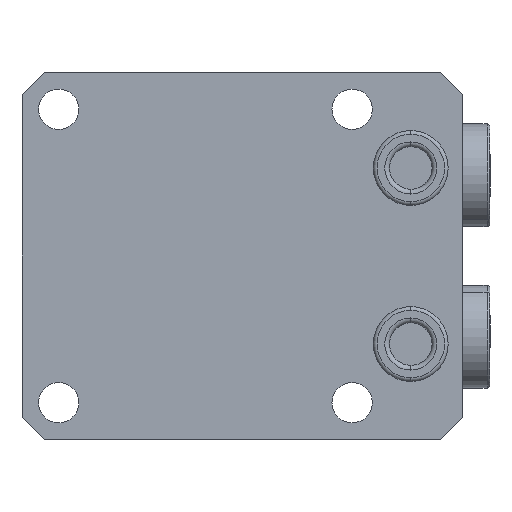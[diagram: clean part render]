
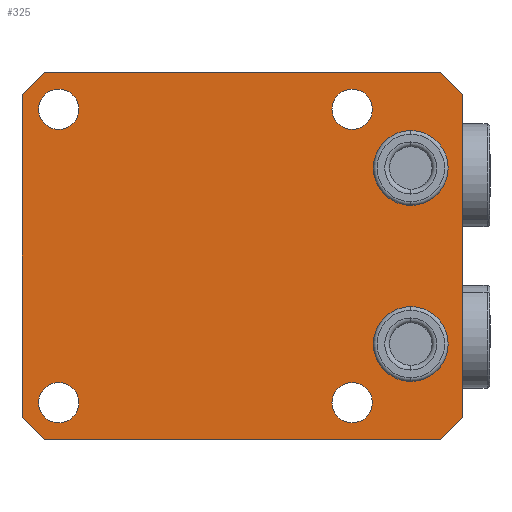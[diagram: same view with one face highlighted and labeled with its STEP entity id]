
A CAD part, front view. The second image highlights one B-rep face of the part: STEP entity #325.
In plain terms, the highlighted planar face has unit normal (0, -1, 0).
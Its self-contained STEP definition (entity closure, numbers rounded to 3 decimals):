
#325=ADVANCED_FACE('',(#770,#771,#772,#773,#774,#775,#776),#434,.F.);
#434=PLANE('',#2228);
#481=LINE('',#3083,#606);
#505=LINE('',#3280,#630);
#506=LINE('',#3283,#631);
#507=LINE('',#3285,#632);
#508=LINE('',#3287,#633);
#509=LINE('',#3288,#634);
#510=LINE('',#3290,#635);
#511=LINE('',#3292,#636);
#606=VECTOR('',#2427,1.);
#630=VECTOR('',#2573,1.);
#631=VECTOR('',#2574,1.);
#632=VECTOR('',#2575,1.);
#633=VECTOR('',#2576,1.);
#634=VECTOR('',#2577,1.);
#635=VECTOR('',#2578,1.);
#636=VECTOR('',#2579,1.);
#770=FACE_BOUND('',#831,.T.);
#771=FACE_BOUND('',#832,.T.);
#772=FACE_BOUND('',#833,.T.);
#773=FACE_BOUND('',#834,.T.);
#774=FACE_BOUND('',#835,.T.);
#775=FACE_BOUND('',#836,.T.);
#776=FACE_BOUND('',#837,.T.);
#831=EDGE_LOOP('',(#1044,#1045,#1046,#1047,#1048,#1049,#1050,#1051));
#832=EDGE_LOOP('',(#1052,#1053));
#833=EDGE_LOOP('',(#1054,#1055));
#834=EDGE_LOOP('',(#1056,#1057));
#835=EDGE_LOOP('',(#1058,#1059));
#836=EDGE_LOOP('',(#1060,#1061));
#837=EDGE_LOOP('',(#1062,#1063));
#1044=ORIENTED_EDGE('',*,*,#1815,.F.);
#1045=ORIENTED_EDGE('',*,*,#1816,.T.);
#1046=ORIENTED_EDGE('',*,*,#1817,.F.);
#1047=ORIENTED_EDGE('',*,*,#1818,.T.);
#1048=ORIENTED_EDGE('',*,*,#1738,.F.);
#1049=ORIENTED_EDGE('',*,*,#1819,.T.);
#1050=ORIENTED_EDGE('',*,*,#1820,.F.);
#1051=ORIENTED_EDGE('',*,*,#1821,.T.);
#1052=ORIENTED_EDGE('',*,*,#1787,.F.);
#1053=ORIENTED_EDGE('',*,*,#1822,.F.);
#1054=ORIENTED_EDGE('',*,*,#1783,.F.);
#1055=ORIENTED_EDGE('',*,*,#1823,.F.);
#1056=ORIENTED_EDGE('',*,*,#1795,.F.);
#1057=ORIENTED_EDGE('',*,*,#1824,.F.);
#1058=ORIENTED_EDGE('',*,*,#1799,.F.);
#1059=ORIENTED_EDGE('',*,*,#1825,.F.);
#1060=ORIENTED_EDGE('',*,*,#1826,.F.);
#1061=ORIENTED_EDGE('',*,*,#1781,.F.);
#1062=ORIENTED_EDGE('',*,*,#1761,.T.);
#1063=ORIENTED_EDGE('',*,*,#1827,.T.);
#1552=VERTEX_POINT('',#3082);
#1553=VERTEX_POINT('',#3084);
#1570=VERTEX_POINT('',#3129);
#1571=VERTEX_POINT('',#3131);
#1584=VERTEX_POINT('',#3168);
#1585=VERTEX_POINT('',#3170);
#1586=VERTEX_POINT('',#3174);
#1587=VERTEX_POINT('',#3175);
#1590=VERTEX_POINT('',#3183);
#1591=VERTEX_POINT('',#3184);
#1598=VERTEX_POINT('',#3206);
#1599=VERTEX_POINT('',#3207);
#1602=VERTEX_POINT('',#3215);
#1603=VERTEX_POINT('',#3216);
#1618=VERTEX_POINT('',#3281);
#1619=VERTEX_POINT('',#3282);
#1620=VERTEX_POINT('',#3284);
#1621=VERTEX_POINT('',#3286);
#1622=VERTEX_POINT('',#3289);
#1623=VERTEX_POINT('',#3291);
#1738=EDGE_CURVE('',#1552,#1553,#481,.T.);
#1761=EDGE_CURVE('',#1571,#1570,#2045,.T.);
#1781=EDGE_CURVE('',#1584,#1585,#2061,.T.);
#1783=EDGE_CURVE('',#1586,#1587,#2062,.T.);
#1787=EDGE_CURVE('',#1590,#1591,#2064,.T.);
#1795=EDGE_CURVE('',#1598,#1599,#2067,.T.);
#1799=EDGE_CURVE('',#1602,#1603,#2069,.T.);
#1815=EDGE_CURVE('',#1618,#1619,#505,.T.);
#1816=EDGE_CURVE('',#1618,#1620,#506,.T.);
#1817=EDGE_CURVE('',#1621,#1620,#507,.T.);
#1818=EDGE_CURVE('',#1621,#1553,#508,.T.);
#1819=EDGE_CURVE('',#1552,#1622,#509,.T.);
#1820=EDGE_CURVE('',#1623,#1622,#510,.T.);
#1821=EDGE_CURVE('',#1623,#1619,#511,.T.);
#1822=EDGE_CURVE('',#1591,#1590,#2072,.T.);
#1823=EDGE_CURVE('',#1587,#1586,#2073,.T.);
#1824=EDGE_CURVE('',#1599,#1598,#2074,.T.);
#1825=EDGE_CURVE('',#1603,#1602,#2075,.T.);
#1826=EDGE_CURVE('',#1585,#1584,#2076,.T.);
#1827=EDGE_CURVE('',#1570,#1571,#2077,.T.);
#2045=CIRCLE('',#2183,5.1);
#2061=CIRCLE('',#2204,5.1);
#2062=CIRCLE('',#2206,2.75);
#2064=CIRCLE('',#2209,2.75);
#2067=CIRCLE('',#2214,2.75);
#2069=CIRCLE('',#2217,2.75);
#2072=CIRCLE('',#2222,2.75);
#2073=CIRCLE('',#2223,2.75);
#2074=CIRCLE('',#2224,2.75);
#2075=CIRCLE('',#2225,2.75);
#2076=CIRCLE('',#2226,5.1);
#2077=CIRCLE('',#2227,5.1);
#2183=AXIS2_PLACEMENT_3D('',#3130,#2478,#2479);
#2204=AXIS2_PLACEMENT_3D('',#3169,#2524,#2525);
#2206=AXIS2_PLACEMENT_3D('',#3173,#2529,#2530);
#2209=AXIS2_PLACEMENT_3D('',#3182,#2537,#2538);
#2214=AXIS2_PLACEMENT_3D('',#3205,#2551,#2552);
#2217=AXIS2_PLACEMENT_3D('',#3214,#2559,#2560);
#2222=AXIS2_PLACEMENT_3D('',#3293,#2580,#2581);
#2223=AXIS2_PLACEMENT_3D('',#3294,#2582,#2583);
#2224=AXIS2_PLACEMENT_3D('',#3295,#2584,#2585);
#2225=AXIS2_PLACEMENT_3D('',#3296,#2586,#2587);
#2226=AXIS2_PLACEMENT_3D('',#3297,#2588,#2589);
#2227=AXIS2_PLACEMENT_3D('',#3298,#2590,#2591);
#2228=AXIS2_PLACEMENT_3D('',#3299,#2592,#2593);
#2427=DIRECTION('',(0.,0.,-1.));
#2478=DIRECTION('',(0.,1.,0.));
#2479=DIRECTION('',(0.,0.,1.));
#2524=DIRECTION('',(0.,-1.,0.));
#2525=DIRECTION('',(0.,0.,-1.));
#2529=DIRECTION('',(0.,-1.,0.));
#2530=DIRECTION('',(0.,0.,1.));
#2537=DIRECTION('',(0.,-1.,0.));
#2538=DIRECTION('',(0.,0.,1.));
#2551=DIRECTION('',(0.,-1.,0.));
#2552=DIRECTION('',(0.,0.,1.));
#2559=DIRECTION('',(0.,-1.,0.));
#2560=DIRECTION('',(0.,0.,1.));
#2573=DIRECTION('',(0.,0.,1.));
#2574=DIRECTION('',(0.707,0.,-0.707));
#2575=DIRECTION('',(-1.,0.,0.));
#2576=DIRECTION('',(0.707,0.,0.707));
#2577=DIRECTION('',(-0.707,0.,0.707));
#2578=DIRECTION('',(1.,0.,0.));
#2579=DIRECTION('',(-0.707,0.,-0.707));
#2580=DIRECTION('',(0.,-1.,0.));
#2581=DIRECTION('',(0.,0.,1.));
#2582=DIRECTION('',(0.,-1.,0.));
#2583=DIRECTION('',(0.,0.,1.));
#2584=DIRECTION('',(0.,-1.,0.));
#2585=DIRECTION('',(0.,0.,1.));
#2586=DIRECTION('',(0.,-1.,0.));
#2587=DIRECTION('',(0.,0.,1.));
#2588=DIRECTION('',(0.,-1.,0.));
#2589=DIRECTION('',(0.,0.,-1.));
#2590=DIRECTION('',(0.,1.,0.));
#2591=DIRECTION('',(0.,0.,1.));
#2592=DIRECTION('',(0.,1.,0.));
#2593=DIRECTION('',(0.,0.,-1.));
#3082=CARTESIAN_POINT('',(35.,0.,22.));
#3083=CARTESIAN_POINT('',(35.,0.,-25.));
#3084=CARTESIAN_POINT('',(35.,0.,-22.));
#3129=CARTESIAN_POINT('',(28.,0.,17.1));
#3130=CARTESIAN_POINT('',(28.,0.,12.));
#3131=CARTESIAN_POINT('',(28.,0.,6.9));
#3168=CARTESIAN_POINT('',(28.,0.,-6.9));
#3169=CARTESIAN_POINT('',(28.,0.,-12.));
#3170=CARTESIAN_POINT('',(28.,0.,-17.1));
#3173=CARTESIAN_POINT('',(-20.,0.,-20.));
#3174=CARTESIAN_POINT('',(-20.,0.,-17.25));
#3175=CARTESIAN_POINT('',(-20.,0.,-22.75));
#3182=CARTESIAN_POINT('',(20.,0.,-20.));
#3183=CARTESIAN_POINT('',(20.,0.,-17.25));
#3184=CARTESIAN_POINT('',(20.,0.,-22.75));
#3205=CARTESIAN_POINT('',(20.,0.,20.));
#3206=CARTESIAN_POINT('',(20.,0.,22.75));
#3207=CARTESIAN_POINT('',(20.,0.,17.25));
#3214=CARTESIAN_POINT('',(-20.,0.,20.));
#3215=CARTESIAN_POINT('',(-20.,0.,22.75));
#3216=CARTESIAN_POINT('',(-20.,0.,17.25));
#3280=CARTESIAN_POINT('',(-25.,0.,-25.));
#3281=CARTESIAN_POINT('',(-25.,0.,-22.));
#3282=CARTESIAN_POINT('',(-25.,0.,22.));
#3283=CARTESIAN_POINT('',(-25.,0.,-22.));
#3284=CARTESIAN_POINT('',(-22.,0.,-25.));
#3285=CARTESIAN_POINT('',(-25.,0.,-25.));
#3286=CARTESIAN_POINT('',(32.,0.,-25.));
#3287=CARTESIAN_POINT('',(32.,0.,-25.));
#3288=CARTESIAN_POINT('',(35.,0.,22.));
#3289=CARTESIAN_POINT('',(32.,0.,25.));
#3290=CARTESIAN_POINT('',(-25.,0.,25.));
#3291=CARTESIAN_POINT('',(-22.,0.,25.));
#3292=CARTESIAN_POINT('',(-22.,0.,25.));
#3293=CARTESIAN_POINT('',(20.,0.,-20.));
#3294=CARTESIAN_POINT('',(-20.,0.,-20.));
#3295=CARTESIAN_POINT('',(20.,0.,20.));
#3296=CARTESIAN_POINT('',(-20.,0.,20.));
#3297=CARTESIAN_POINT('',(28.,0.,-12.));
#3298=CARTESIAN_POINT('',(28.,0.,12.));
#3299=CARTESIAN_POINT('',(-25.,0.,25.));
